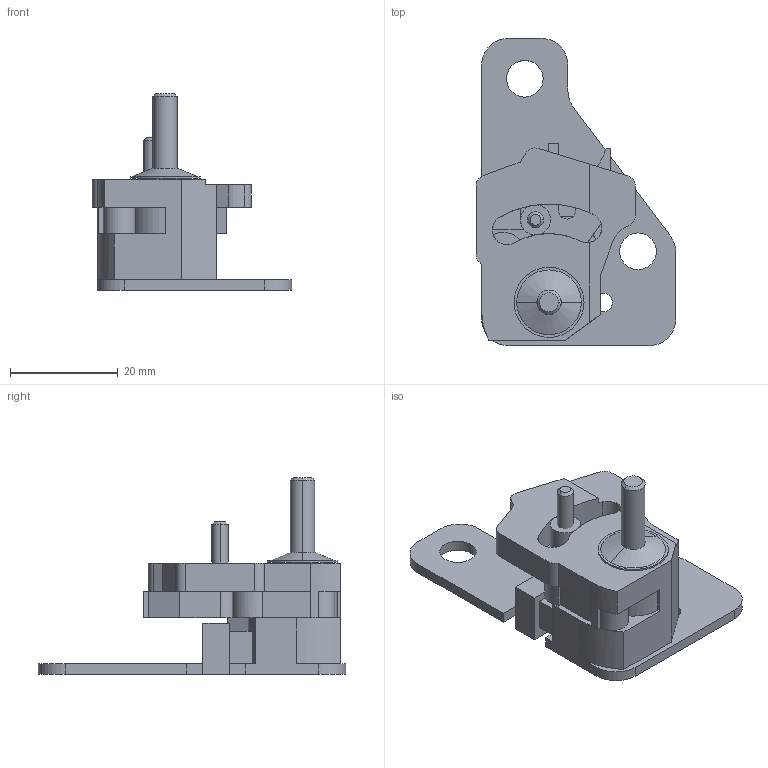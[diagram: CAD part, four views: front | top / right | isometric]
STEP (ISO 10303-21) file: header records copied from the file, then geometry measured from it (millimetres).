
FILE_DESCRIPTION (( 'STEP AP214' ), '1' );
FILE_NAME ('Nova_Pro_Tipmatic_Plus_rechts.step', '2009-11-24T07:30:19', ( 'Grass' ), ( 'Grass GmbH' ), 'SwSTEP 2.0', 'SolidWorks 2009', '' );
FILE_SCHEMA (( 'AUTOMOTIVE_DESIGN' ));
Length unit declared in the file: millimetre
Products named in the file (1): Nova_Pro_Tipmatic_Plus_rechts
Bounding box: 37 x 57 x 36.5 mm (x, y, z)
Volume: 13064.6 mm3; surface area: 7866.3 mm2
Topology: 3 solids, 3 shells, 158 faces, 431 edges, 278 vertices
Faces by surface type: plane 95, cylinder 57, cone 6
Entity records: 5075 total; most frequent: DIRECTION 897, CARTESIAN_POINT 868, ORIENTED_EDGE 862, EDGE_CURVE 431, AXIS2_PLACEMENT_3D 307, LINE 283, VECTOR 283, VERTEX_POINT 278
